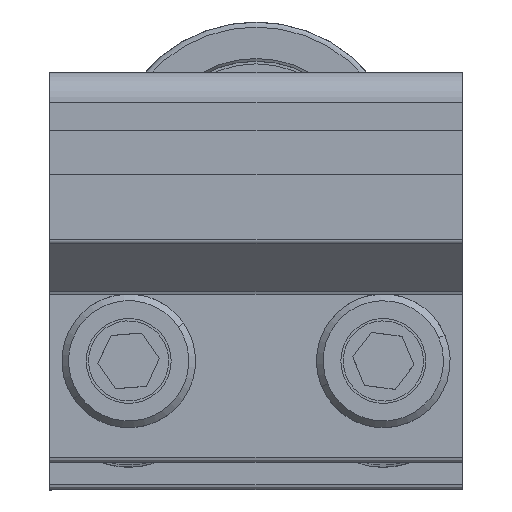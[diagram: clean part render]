
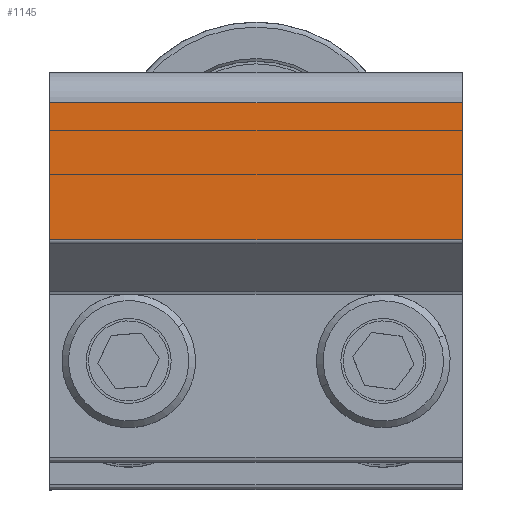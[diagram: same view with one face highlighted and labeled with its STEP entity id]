
A CAD part, top view. The second image highlights one B-rep face of the part: STEP entity #1145.
In plain terms, the highlighted planar face has unit normal (0, 0, 1) as drawn and (1, 0, 0) by its records, which use the part's own axes.
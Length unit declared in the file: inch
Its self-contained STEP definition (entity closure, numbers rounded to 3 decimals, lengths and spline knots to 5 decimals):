
#645=DIRECTION('',(0.,0.,1.));
#646=VECTOR('',#645,1.216);
#647=CARTESIAN_POINT('',(0.375,0.35921,-0.608));
#648=LINE('',#647,#646);
#649=DIRECTION('',(0.,-1.,0.));
#650=VECTOR('',#649,0.40379);
#651=CARTESIAN_POINT('',(0.375,0.763,-0.608));
#652=LINE('',#651,#650);
#730=DIRECTION('',(0.,-1.,0.));
#731=VECTOR('',#730,0.40379);
#732=CARTESIAN_POINT('',(0.375,0.763,0.608));
#733=LINE('',#732,#731);
#943=DIRECTION('',(0.,0.,-1.));
#944=VECTOR('',#943,1.216);
#945=CARTESIAN_POINT('',(0.375,0.763,0.608));
#946=LINE('',#945,#944);
#989=CARTESIAN_POINT('',(0.375,0.35921,-0.608));
#991=VERTEX_POINT('',#989);
#1021=CARTESIAN_POINT('',(0.375,0.763,-0.608));
#1022=VERTEX_POINT('',#1021);
#1029=CARTESIAN_POINT('',(0.375,0.763,0.608));
#1030=VERTEX_POINT('',#1029);
#1053=CARTESIAN_POINT('',(0.375,0.35921,0.608));
#1054=VERTEX_POINT('',#1053);
#1132=CARTESIAN_POINT('',(0.375,0.763,0.608));
#1133=DIRECTION('',(-1.,0.,0.));
#1134=DIRECTION('',(0.,-1.,0.));
#1135=AXIS2_PLACEMENT_3D('',#1132,#1133,#1134);
#1136=PLANE('',#1135);
#1138=ORIENTED_EDGE('',*,*,#1137,.F.);
#1140=ORIENTED_EDGE('',*,*,#1139,.T.);
#1141=ORIENTED_EDGE('',*,*,#1088,.T.);
#1142=ORIENTED_EDGE('',*,*,#1078,.T.);
#1143=EDGE_LOOP('',(#1138,#1140,#1141,#1142));
#1144=FACE_OUTER_BOUND('',#1143,.F.);
#1078=EDGE_CURVE('',#991,#1054,#648,.T.);
#1088=EDGE_CURVE('',#1022,#991,#652,.T.);
#1137=EDGE_CURVE('',#1030,#1054,#733,.T.);
#1139=EDGE_CURVE('',#1030,#1022,#946,.T.);
#1145=ADVANCED_FACE('',(#1144),#1136,.F.);
